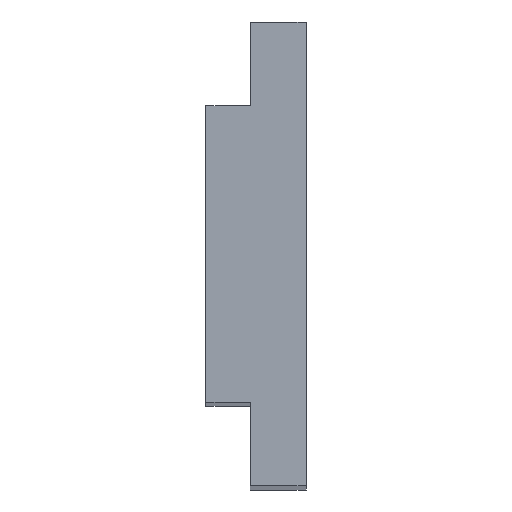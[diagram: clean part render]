
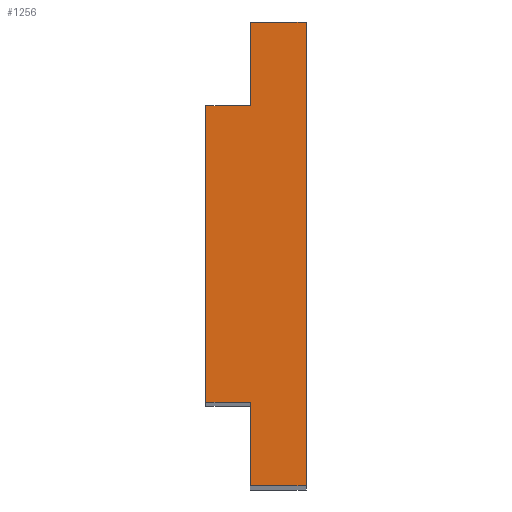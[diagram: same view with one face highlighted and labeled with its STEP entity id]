
A CAD part, top view. The second image highlights one B-rep face of the part: STEP entity #1256.
In plain terms, the highlighted planar face has unit normal (0, 0, 1).
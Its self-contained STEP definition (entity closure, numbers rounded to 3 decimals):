
#9 = DIRECTION ( 'NONE',  ( 1., 0., 0. ) ) ;
#18 = CARTESIAN_POINT ( 'NONE',  ( -3., 25., 252. ) ) ;
#29 = VERTEX_POINT ( 'NONE', #167 ) ;
#30 = LINE ( 'NONE', #2026, #2056 ) ;
#44 = DIRECTION ( 'NONE',  ( 0., -1., 0. ) ) ;
#90 = EDGE_CURVE ( 'NONE', #386, #1303, #30, .T. ) ;
#135 = DIRECTION ( 'NONE',  ( 1., 0., 0. ) ) ;
#145 = VERTEX_POINT ( 'NONE', #1337 ) ;
#167 = CARTESIAN_POINT ( 'NONE',  ( 3., 25., 252. ) ) ;
#277 = DIRECTION ( 'NONE',  ( 1., 0., 0. ) ) ;
#280 = EDGE_CURVE ( 'NONE', #2145, #145, #1742, .T. ) ;
#287 = VECTOR ( 'NONE', #1683, 1000. ) ;
#323 = EDGE_CURVE ( 'NONE', #29, #823, #604, .T. ) ;
#386 = VERTEX_POINT ( 'NONE', #702 ) ;
#392 = DIRECTION ( 'NONE',  ( 0., -1., 0. ) ) ;
#419 = ORIENTED_EDGE ( 'NONE', *, *, #323, .F. ) ;
#514 = LINE ( 'NONE', #18, #287 ) ;
#545 = LINE ( 'NONE', #1866, #1848 ) ;
#604 = LINE ( 'NONE', #1194, #1826 ) ;
#645 = DIRECTION ( 'NONE',  ( 1., 0., 0. ) ) ;
#658 = VECTOR ( 'NONE', #392, 1000. ) ;
#702 = CARTESIAN_POINT ( 'NONE',  ( -7.8, 16., 252. ) ) ;
#719 = ORIENTED_EDGE ( 'NONE', *, *, #1411, .T. ) ;
#767 = CARTESIAN_POINT ( 'NONE',  ( -3., -25., 252. ) ) ;
#795 = ORIENTED_EDGE ( 'NONE', *, *, #1536, .T. ) ;
#823 = VERTEX_POINT ( 'NONE', #1690 ) ;
#879 = CARTESIAN_POINT ( 'NONE',  ( -3., 25., 252. ) ) ;
#931 = VERTEX_POINT ( 'NONE', #879 ) ;
#957 = CARTESIAN_POINT ( 'NONE',  ( 0., 0., 252. ) ) ;
#999 = LINE ( 'NONE', #1443, #1720 ) ;
#1007 = ORIENTED_EDGE ( 'NONE', *, *, #1235, .F. ) ;
#1008 = VECTOR ( 'NONE', #645, 1000. ) ;
#1103 = DIRECTION ( 'NONE',  ( 1., 0., 0. ) ) ;
#1131 = VECTOR ( 'NONE', #1103, 1000. ) ;
#1157 = ORIENTED_EDGE ( 'NONE', *, *, #90, .F. ) ;
#1173 = AXIS2_PLACEMENT_3D ( 'NONE', #957, #1274, #277 ) ;
#1194 = CARTESIAN_POINT ( 'NONE',  ( 3., 25., 252. ) ) ;
#1202 = ORIENTED_EDGE ( 'NONE', *, *, #280, .T. ) ;
#1235 = EDGE_CURVE ( 'NONE', #931, #29, #999, .T. ) ;
#1256 = ADVANCED_FACE ( 'NONE', ( #1321 ), #1637, .T. ) ;
#1274 = DIRECTION ( 'NONE',  ( 0., 0., 1. ) ) ;
#1303 = VERTEX_POINT ( 'NONE', #2176 ) ;
#1321 = FACE_OUTER_BOUND ( 'NONE', #1952, .T. ) ;
#1326 = CARTESIAN_POINT ( 'NONE',  ( 0., -16., 252. ) ) ;
#1337 = CARTESIAN_POINT ( 'NONE',  ( -3., -25., 252. ) ) ;
#1407 = LINE ( 'NONE', #1326, #1008 ) ;
#1411 = EDGE_CURVE ( 'NONE', #2162, #2145, #1407, .T. ) ;
#1443 = CARTESIAN_POINT ( 'NONE',  ( -3., 25., 252. ) ) ;
#1466 = EDGE_CURVE ( 'NONE', #2162, #386, #545, .T. ) ;
#1536 = EDGE_CURVE ( 'NONE', #931, #1303, #514, .T. ) ;
#1637 = PLANE ( 'NONE',  #1173 ) ;
#1676 = ORIENTED_EDGE ( 'NONE', *, *, #1908, .T. ) ;
#1683 = DIRECTION ( 'NONE',  ( 0., -1., 0. ) ) ;
#1690 = CARTESIAN_POINT ( 'NONE',  ( 3., -25., 252. ) ) ;
#1703 = CARTESIAN_POINT ( 'NONE',  ( -3., 25., 252. ) ) ;
#1717 = ORIENTED_EDGE ( 'NONE', *, *, #1466, .F. ) ;
#1720 = VECTOR ( 'NONE', #135, 1000. ) ;
#1742 = LINE ( 'NONE', #1703, #658 ) ;
#1826 = VECTOR ( 'NONE', #44, 1000. ) ;
#1848 = VECTOR ( 'NONE', #2064, 1000. ) ;
#1851 = CARTESIAN_POINT ( 'NONE',  ( -3., -16., 252. ) ) ;
#1866 = CARTESIAN_POINT ( 'NONE',  ( -7.8, 0., 252. ) ) ;
#1908 = EDGE_CURVE ( 'NONE', #145, #823, #1922, .T. ) ;
#1922 = LINE ( 'NONE', #767, #1131 ) ;
#1952 = EDGE_LOOP ( 'NONE', ( #1157, #1717, #719, #1202, #1676, #419, #1007, #795 ) ) ;
#1994 = CARTESIAN_POINT ( 'NONE',  ( -7.8, -16., 252. ) ) ;
#2026 = CARTESIAN_POINT ( 'NONE',  ( 0., 16., 252. ) ) ;
#2056 = VECTOR ( 'NONE', #9, 1000. ) ;
#2064 = DIRECTION ( 'NONE',  ( 0., 1., 0. ) ) ;
#2145 = VERTEX_POINT ( 'NONE', #1851 ) ;
#2162 = VERTEX_POINT ( 'NONE', #1994 ) ;
#2176 = CARTESIAN_POINT ( 'NONE',  ( -3., 16., 252. ) ) ;
